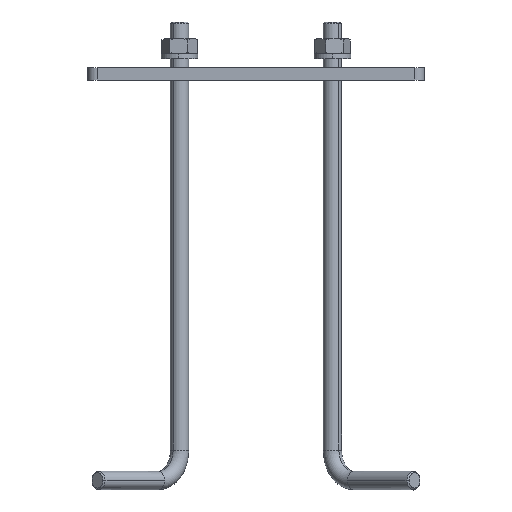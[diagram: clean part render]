
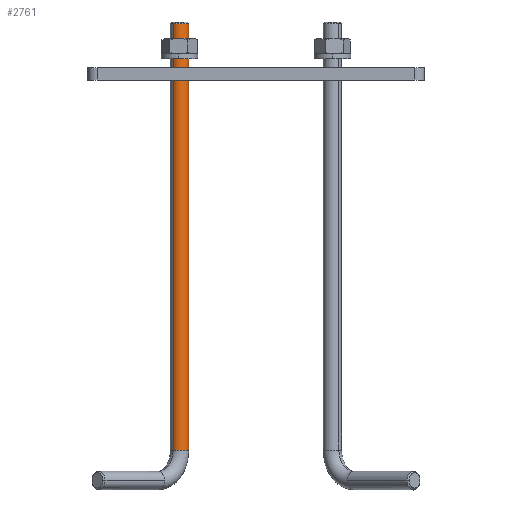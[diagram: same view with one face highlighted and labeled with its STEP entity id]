
A CAD part, top view. The second image highlights one B-rep face of the part: STEP entity #2761.
In plain terms, the highlighted cylindrical face has radius 3 mm (diameter 6 mm), a partial arc.
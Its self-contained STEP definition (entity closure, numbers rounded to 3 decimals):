
#12 = VECTOR ( 'NONE', #2278, 1000. ) ;
#56 = CIRCLE ( 'NONE', #3031, 3. ) ;
#75 = ORIENTED_EDGE ( 'NONE', *, *, #1644, .F. ) ;
#79 = VERTEX_POINT ( 'NONE', #1453 ) ;
#286 = ORIENTED_EDGE ( 'NONE', *, *, #559, .T. ) ;
#336 = DIRECTION ( 'NONE',  ( 0., 1., 0. ) ) ;
#351 = CARTESIAN_POINT ( 'NONE',  ( 0., -0.5, 0. ) ) ;
#381 = ORIENTED_EDGE ( 'NONE', *, *, #3329, .T. ) ;
#555 = DIRECTION ( 'NONE',  ( 0., 1., 0. ) ) ;
#559 = EDGE_CURVE ( 'NONE', #2677, #2744, #1094, .T. ) ;
#574 = CARTESIAN_POINT ( 'NONE',  ( -3., -0.5, 0. ) ) ;
#598 = AXIS2_PLACEMENT_3D ( 'NONE', #351, #2439, #2660 ) ;
#607 = FACE_OUTER_BOUND ( 'NONE', #1288, .T. ) ;
#1094 = CIRCLE ( 'NONE', #598, 3. ) ;
#1288 = EDGE_LOOP ( 'NONE', ( #1328, #381, #286, #75 ) ) ;
#1324 = AXIS2_PLACEMENT_3D ( 'NONE', #2707, #2451, #2293 ) ;
#1328 = ORIENTED_EDGE ( 'NONE', *, *, #2121, .T. ) ;
#1386 = CARTESIAN_POINT ( 'NONE',  ( 0., -140., 0. ) ) ;
#1453 = CARTESIAN_POINT ( 'NONE',  ( -3., -140., 0. ) ) ;
#1644 = EDGE_CURVE ( 'NONE', #79, #2744, #2182, .T. ) ;
#1657 = CYLINDRICAL_SURFACE ( 'NONE', #1324, 3. ) ;
#1683 = CARTESIAN_POINT ( 'NONE',  ( 3., -140., 0. ) ) ;
#1702 = LINE ( 'NONE', #2753, #12 ) ;
#1766 = VERTEX_POINT ( 'NONE', #1683 ) ;
#2121 = EDGE_CURVE ( 'NONE', #79, #1766, #56, .T. ) ;
#2135 = VECTOR ( 'NONE', #555, 1000. ) ;
#2182 = LINE ( 'NONE', #2960, #2135 ) ;
#2278 = DIRECTION ( 'NONE',  ( 0., 1., 0. ) ) ;
#2293 = DIRECTION ( 'NONE',  ( -1., 0., 0. ) ) ;
#2439 = DIRECTION ( 'NONE',  ( 0., -1., 0. ) ) ;
#2451 = DIRECTION ( 'NONE',  ( 0., 1., 0. ) ) ;
#2487 = CARTESIAN_POINT ( 'NONE',  ( 3., -0.5, 0. ) ) ;
#2660 = DIRECTION ( 'NONE',  ( -1., 0., 0. ) ) ;
#2677 = VERTEX_POINT ( 'NONE', #2487 ) ;
#2707 = CARTESIAN_POINT ( 'NONE',  ( 0., -140., 0. ) ) ;
#2744 = VERTEX_POINT ( 'NONE', #574 ) ;
#2753 = CARTESIAN_POINT ( 'NONE',  ( 3., -140., 0. ) ) ;
#2761 = ADVANCED_FACE ( 'NONE', ( #607 ), #1657, .T. ) ;
#2960 = CARTESIAN_POINT ( 'NONE',  ( -3., -140., 0. ) ) ;
#2989 = DIRECTION ( 'NONE',  ( 0., 0., 1. ) ) ;
#3031 = AXIS2_PLACEMENT_3D ( 'NONE', #1386, #336, #2989 ) ;
#3329 = EDGE_CURVE ( 'NONE', #1766, #2677, #1702, .T. ) ;
